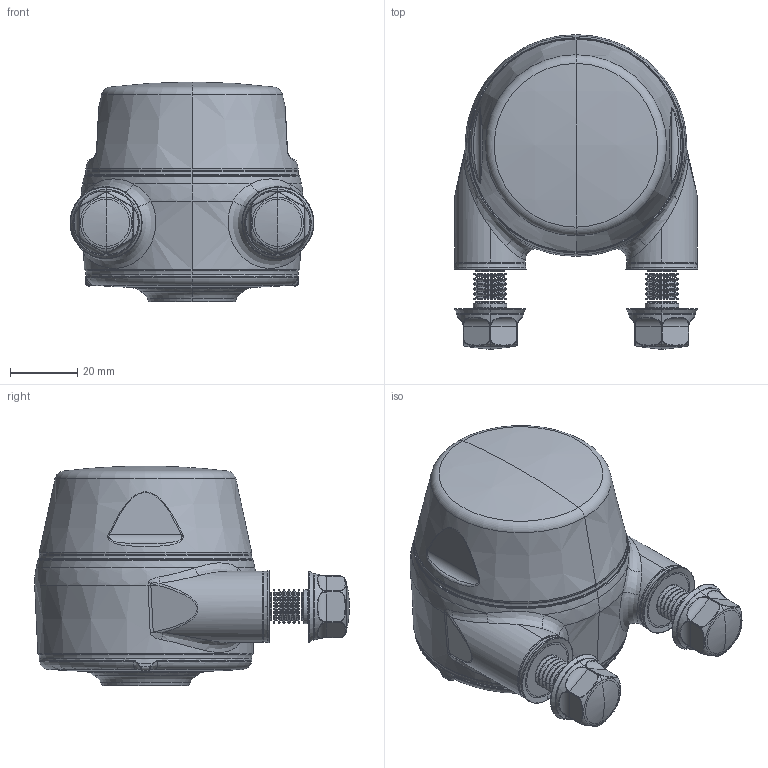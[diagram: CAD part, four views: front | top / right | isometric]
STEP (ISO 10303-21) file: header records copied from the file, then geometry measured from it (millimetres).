
FILE_DESCRIPTION (( 'STEP AP203' ), '1' );
FILE_NAME ('XBTBC52(Blue)-CSB2500(Front)-CL(Blue)-OS(Blue)-BXHM1016_Shell.step', '2020-08-05T23:59:10', ( '' ), ( '' ), 'SwSTEP 2.0', 'SolidWorks 2019', '' );
FILE_SCHEMA (( 'CONFIG_CONTROL_DESIGN' ));
Length unit declared in the file: millimetre
Products named in the file (1): XBTBC52(Blue)-CSB2500(Front)-CL(Blue)-OS(Blue)-BXHM1016_Shell
Bounding box: 72.4 x 93.39 x 65.25 mm (x, y, z)
Surface area: 32668.3 mm2 (no closed solid volume)
Topology: 0 solids, 28 shells, 517 faces, 1517 edges, 996 vertices
Faces by surface type: torus 150, cylinder 108, cone 107, bspline 106, plane 36, sphere 10
Entity records: 25180 total; most frequent: CARTESIAN_POINT 12129, DIRECTION 2800, ORIENTED_EDGE 2578, EDGE_CURVE 1517, AXIS2_PLACEMENT_3D 1253, VERTEX_POINT 996, CIRCLE 841, EDGE_LOOP 540
